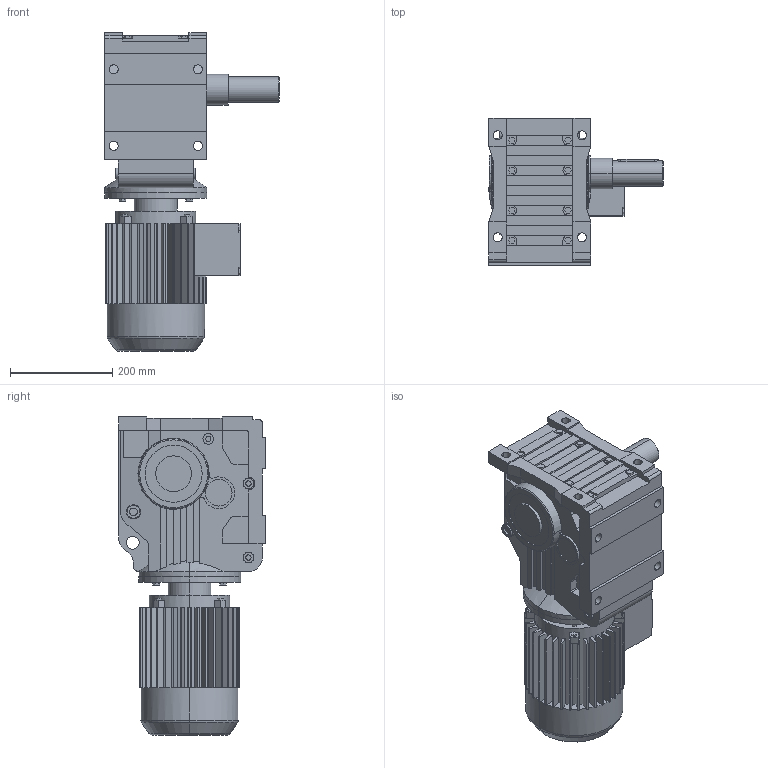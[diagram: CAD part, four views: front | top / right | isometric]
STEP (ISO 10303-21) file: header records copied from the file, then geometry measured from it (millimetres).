
FILE_DESCRIPTION(('Open CASCADE Model'),'2;1');
FILE_NAME('Open CASCADE Shape Model','2021-06-07T17:02:27',('Author'),( 'Open CASCADE'),'Open CASCADE STEP processor 6.3','Open CASCADE 6.3' ,'Unknown');
FILE_SCHEMA(('AUTOMOTIVE_DESIGN_CC2 { 1 2 10303 214 -1 1 5 4 }'));
Length unit declared in the file: millimetre
Products named in the file (4): 1_K77DV100M-A; K37‵157_77.step; 萇儂_200-DV100M-311-396-197-166.step; す瑩妗陑粣K_77.step
Assembly tree (3 placements, depth 2):
  1_K77DV100M-A
    K37‵157_77.step
    萇儂_200-DV100M-311-396-197-166.step
    す瑩妗陑粣K_77.step
Bounding box: 342 x 288 x 625 mm (x, y, z)
Volume: 21121675.5 mm3; surface area: 1064521.5 mm2
Topology: 3 solids, 3 shells, 841 faces, 2214 edges, 1436 vertices
Faces by surface type: plane 585, cylinder 231, cone 17, torus 8
Entity records: 57863 total; most frequent: CARTESIAN_POINT 15770, DIRECTION 7261, ORIENTED_EDGE 4424, PCURVE 4424, DEFINITIONAL_REPRESENTATION 4424, LINE 3951, VECTOR 3951, EDGE_CURVE 2212
